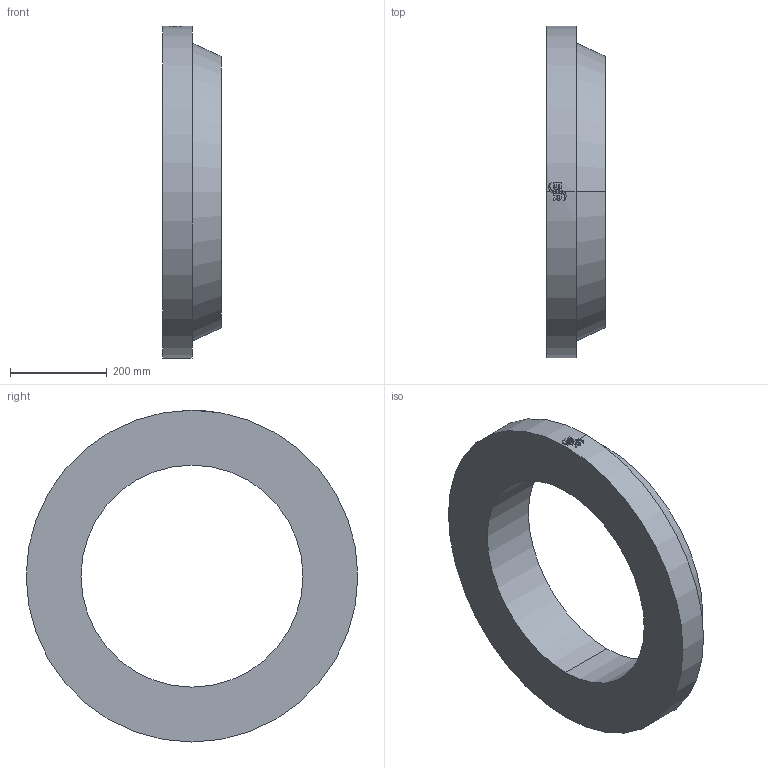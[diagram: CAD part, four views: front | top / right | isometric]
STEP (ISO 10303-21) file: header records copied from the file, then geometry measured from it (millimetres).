
FILE_DESCRIPTION (( 'STEP AP214' ), '1' );
FILE_NAME ('233528F035.STEP', '2018-07-20T09:50:50', ( '' ), ( '' ), 'SwSTEP 2.0', 'SolidWorks 2017', '' );
FILE_SCHEMA (( 'AUTOMOTIVE_DESIGN' ));
Length unit declared in the file: millimetre
Products named in the file (1): 233528F035
Bounding box: 120 x 685 x 685.5 mm (x, y, z)
Volume: 18584595.7 mm3; surface area: 780138.3 mm2
Topology: 1 solids, 1 shells, 58 faces, 150 edges, 100 vertices
Faces by surface type: plane 29, cylinder 27, cone 2
Entity records: 3008 total; most frequent: CARTESIAN_POINT 955, ORIENTED_EDGE 300, DIRECTION 272, EDGE_CURVE 150, AXIS2_PLACEMENT_3D 103, VERTEX_POINT 100, LINE 66, VECTOR 66
